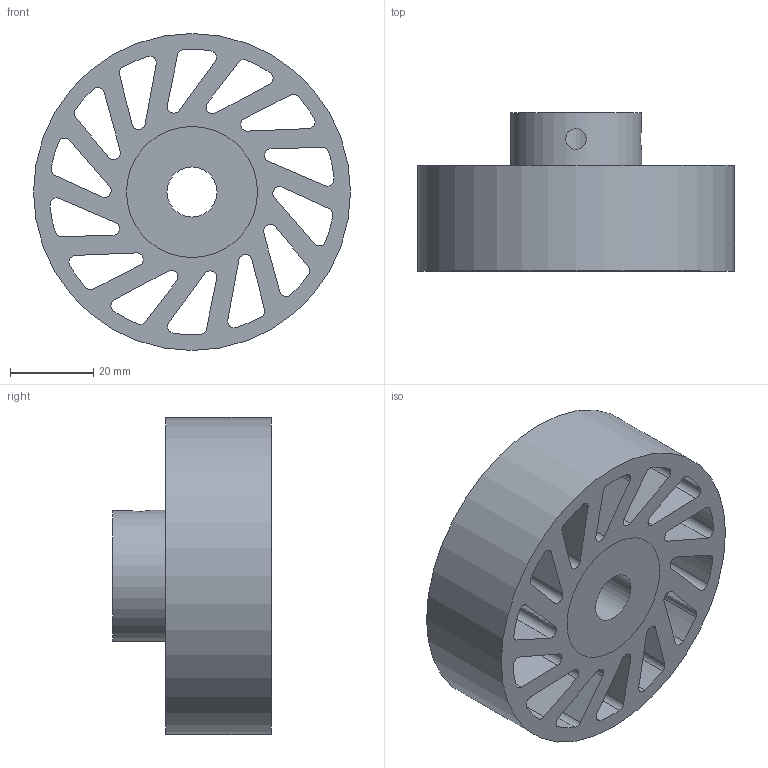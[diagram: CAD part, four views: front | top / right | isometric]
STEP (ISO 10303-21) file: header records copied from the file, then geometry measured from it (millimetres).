
FILE_DESCRIPTION(/* description */ (''),/* implementation_level */ '2;1');
FILE_NAME(/* name */ 'NCWM-650-XXX-YYY.stp',/* time_stamp */ '2023-02-02T16:15:07-06:00',/* author */ ('AG'),/* organization */ ('Meridian Laboratory'),/* preprocessor_version */ 'ST-DEVELOPER v18.1',/* originating_system */ 'Autodesk Inventor 2022',/* authorisation */ '');
FILE_SCHEMA (('AUTOMOTIVE_DESIGN { 1 0 10303 214 3 1 1 }'));
Length unit declared in the file: millimetre
Products named in the file (1): NCWM-640
Bounding box: 76.2 x 38.1 x 76.2 mm (x, y, z)
Volume: 85680 mm3; surface area: 35521.5 mm2
Topology: 2 solids, 2 shells, 94 faces, 274 edges, 184 vertices
Faces by surface type: cylinder 62, plane 32
Full cylindrical faces by diameter (mm): 5 x2, 12.025 x1, 31.496 x2, 76.2 x1
Entity records: 3510 total; most frequent: CARTESIAN_POINT 689, DIRECTION 576, ORIENTED_EDGE 548, EDGE_CURVE 274, AXIS2_PLACEMENT_3D 215, VERTEX_POINT 184, LINE 146, VECTOR 146
